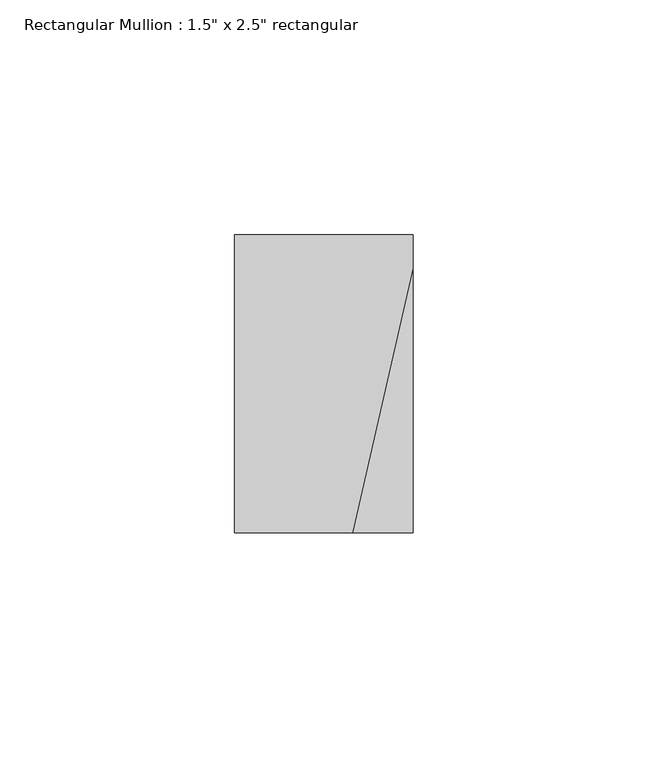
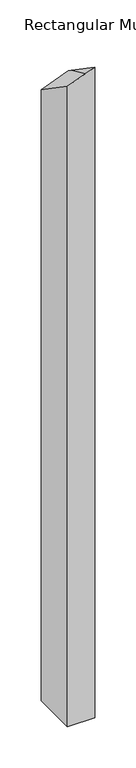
"""IFC4 building model written with IfcOpenShell, lengths in millimetres: member geometry."""

from ifc_helpers import new_model, si_unit, origin, place, context, project, spatial, faceted_brep, source, transform, mapped, element, save


def member_245d92fc(model_context):
    return source(origin(), model_context, "Body", "Brep", [
        faceted_brep([(19.05, 31.75, -973.5508631), (19.05, -31.75, -973.5508631), (-19.05, -31.75, -973.5508631), (-19.05, 31.75, -973.5508631), (-19.05, 31.75, -69.7699087), (19.05, 31.75, -54.949885), (-19.05, -31.75, -26.0210992), (19.05, -31.75, -11.4120511), (6.172256, -31.75, -16.2102217), (19.05, 24.6105329, -50.0310946)], [[[0, 1, 2, 3]], [[4, 5, 0, 3]], [[6, 4, 3, 2]], [[7, 8, 6, 2, 1]], [[5, 9, 7, 1, 0]], [[5, 4, 6, 8, 9]], [[8, 7, 9]]]),
    ])


if __name__ == "__main__":
    model = new_model("IFC4")
    model_context = context("Model", 3, world=origin())
    ifc_project = project(units=[si_unit("LENGTHUNIT", "METRE", prefix="MILLI")], contexts=[model_context])
    site = spatial("IfcSite", under=ifc_project)
    building = spatial("IfcBuilding", under=site)
    placement = place(None, origin())
    member_shape = member_245d92fc(model_context)
    element("IfcMember", 1, ObjectType="Rectangular Mullion : 1.5\" x 2.5\" rectangular", at=placement, inside=building, context=model_context, shape_type="MappedRepresentation", body=[
        mapped(member_shape, transform((0.0, 0.0, 0.0), x_axis=(1.0, 0.0, 0.0), y_axis=(0.0, 1.0, 0.0), z_axis=(0.0, 0.0, 1.0))),
    ])
    save(model, "model.ifc")
